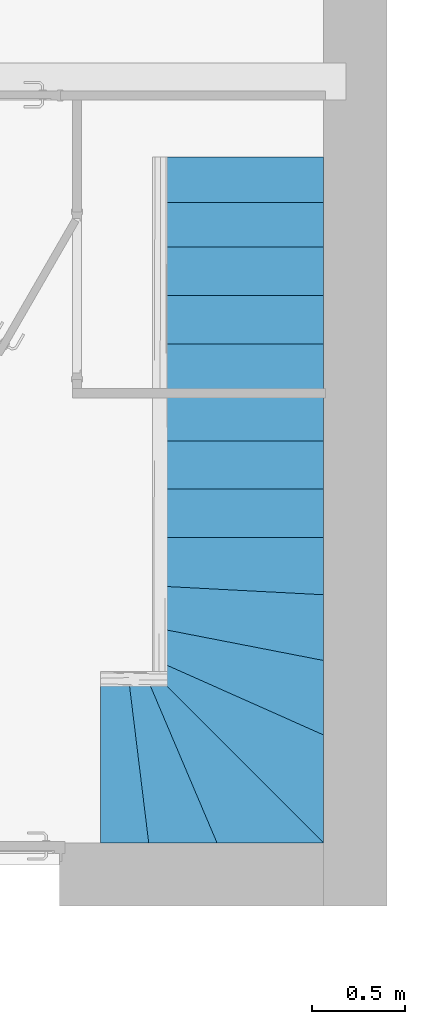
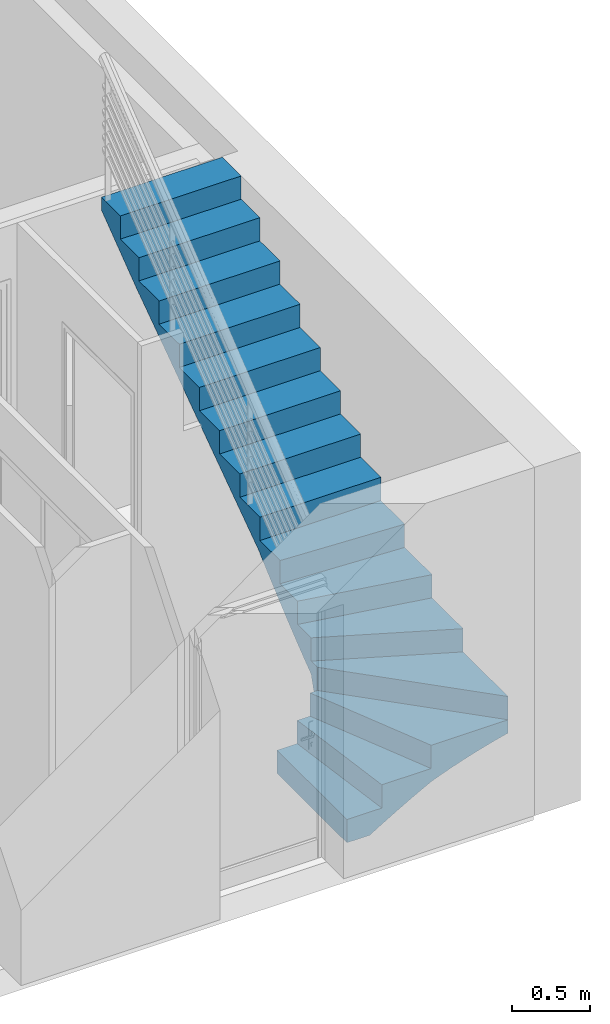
# One storey, part 12 of 12: 1 stair, 1 element without a shape of its own.
"""IFC2X3 building model written with IfcOpenShell, lengths in metres."""

from ifc_helpers import new_model, entity, si_unit, converted_unit, derived_unit, direction, frame, origin, place, context, subcontext, project, spatial, faceted_brep, material, element, aggregate, save


model = new_model("IFC2X3")

# Units and contexts
model_context = context("Model", 3, precision=1e-05, world=origin(), true_north=direction((6.12303176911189e-17, 1.0)))
context_of_model = context(None, 3, precision=1e-05, world=origin(), true_north=direction((6.12303176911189e-17, 1.0)))
body_context = subcontext(model_context, "Body", "Model", "MODEL_VIEW")
ifc_project = project(units=[si_unit("LENGTHUNIT", "METRE"), si_unit("AREAUNIT", "SQUARE_METRE"), si_unit("VOLUMEUNIT", "CUBIC_METRE"), converted_unit("PLANEANGLEUNIT", "DEGREE", entity("IfcRatioMeasure", 0.0174532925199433), si_unit("PLANEANGLEUNIT", "RADIAN"), dimensions=[0, 0, 0, 0, 0, 0, 0]), si_unit("MASSUNIT", "GRAM", prefix="KILO"), si_unit("TIMEUNIT", "SECOND"), si_unit("FREQUENCYUNIT", "HERTZ"), si_unit("THERMODYNAMICTEMPERATUREUNIT", "DEGREE_CELSIUS"), derived_unit("THERMALTRANSMITTANCEUNIT", [(si_unit("MASSUNIT", "GRAM", prefix="KILO"), 1), (si_unit("THERMODYNAMICTEMPERATUREUNIT", "KELVIN"), -1), (si_unit("TIMEUNIT", "SECOND"), -3)]), derived_unit("VOLUMETRICFLOWRATEUNIT", [(si_unit("LENGTHUNIT", "METRE"), 3), (si_unit("TIMEUNIT", "SECOND"), -1)]), si_unit("ELECTRICCURRENTUNIT", "AMPERE"), si_unit("ELECTRICVOLTAGEUNIT", "VOLT"), si_unit("POWERUNIT", "WATT"), si_unit("FORCEUNIT", "NEWTON", prefix="KILO"), si_unit("ILLUMINANCEUNIT", "LUX"), si_unit("LUMINOUSFLUXUNIT", "LUMEN"), si_unit("LUMINOUSINTENSITYUNIT", "CANDELA"), derived_unit("USERDEFINED", [(si_unit("MASSUNIT", "GRAM", prefix="KILO"), -1), (si_unit("LENGTHUNIT", "METRE"), -2), (si_unit("TIMEUNIT", "SECOND"), 3), (si_unit("LUMINOUSFLUXUNIT", "LUMEN"), 1)]), derived_unit("LINEARVELOCITYUNIT", [(si_unit("LENGTHUNIT", "METRE"), 1), (si_unit("TIMEUNIT", "SECOND"), -1)]), si_unit("PRESSUREUNIT", "PASCAL"), derived_unit("USERDEFINED", [(si_unit("LENGTHUNIT", "METRE"), -2), (si_unit("MASSUNIT", "GRAM", prefix="KILO"), 1), (si_unit("TIMEUNIT", "SECOND"), -2)])], contexts=[model_context, context_of_model])

# Site, building, storey
site_placement = place(None, origin())
site = spatial("IfcSite", under=ifc_project, at=site_placement, Name="Surface", CompositionType="ELEMENT")
building_placement = place(site_placement, origin())
building = spatial("IfcBuilding", under=site, at=building_placement, CompositionType="ELEMENT")
storey_placement = place(building_placement, origin())
storey = spatial("IfcBuildingStorey", under=building, at=storey_placement, Name="Rez de chaussée", CompositionType="ELEMENT", Elevation=0.0)

# Stairs
stair_1_placement = place(storey_placement, frame((0.223911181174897, -2.47733948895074, -0.0015952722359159)))
stair_1 = element("IfcStair", 1, at=stair_1_placement, inside=storey, Name="Escalier:Monobloc", ObjectType="Escalier:Monobloc", ShapeType="NOTDEFINED")
ifc_material = material(Name="Maçonnerie - Béton")
stair_2_placement = place(stair_1_placement, origin())
stair_2 = element("IfcStair", 2, at=stair_2_placement, material=ifc_material, Name="Escalier:Monobloc", ObjectType="Escalier:Monobloc", ShapeType="NOTDEFINED", context=body_context, shape_type="Brep", body=[
    faceted_brep([(0.261275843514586, 0.901595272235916, 0.312832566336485), (0.333895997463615, 0.763920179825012, 0.30809771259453), (0.272203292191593, 0.837137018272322, 0.262732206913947), (0.244842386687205, 0.901595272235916, 0.262732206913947), (0.834293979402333, 0.283330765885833, 0.413671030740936), (0.881973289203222, 0.14435942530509, 0.39000664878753), (0.759369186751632, 0.25462048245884, 0.375443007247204), (1.01269917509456, 0.202790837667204, 0.448129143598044), (0.945689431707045, 0.370151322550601, 0.482330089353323), (1.07574269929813, 0.315547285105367, 0.501353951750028), (0.770753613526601, 0.53572815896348, 0.488425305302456), (0.811462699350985, 0.581363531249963, 0.527283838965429), (0.989789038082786, 0.428165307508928, 0.517711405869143), (0.399995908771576, 0.688437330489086, 0.335213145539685), (0.399092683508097, 0.626159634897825, 0.299533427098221), (1.00745466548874, 0.593819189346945, 0.59309405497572), (1.05192171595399, 0.496353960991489, 0.561864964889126), (0.910863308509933, 0.583491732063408, 0.561720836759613), (1.19999999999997, 0.0754166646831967, 0.463214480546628), (1.12699149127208, 0.00159527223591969, 0.42686933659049), (0.299564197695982, 0.772678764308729, 0.262732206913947), (0.32692510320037, 0.708220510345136, 0.262732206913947), (0.518642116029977, 0.45262458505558, 0.318963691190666), (0.583670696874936, 0.494784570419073, 0.375738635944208), (0.616975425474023, 0.372201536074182, 0.347352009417), (0.479089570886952, 0.618209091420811, 0.364897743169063), (0.595158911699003, 0.57099098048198, 0.419007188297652), (0.656637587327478, 0.568603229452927, 0.452061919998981), (0.697588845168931, 0.453854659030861, 0.418618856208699), (0.2794675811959, 0.901595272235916, 0.362338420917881), (0.407688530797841, 0.744821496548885, 0.384146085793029), (0.299999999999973, 0.921954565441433, 0.452585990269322), (0.400594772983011, 0.80634088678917, 0.434307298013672), (0.299999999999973, 0.901595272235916, 0.410913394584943), (0.409007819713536, 0.514845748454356, 0.262732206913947), (0.381646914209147, 0.579304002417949, 0.262732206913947), (0.354286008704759, 0.643762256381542, 0.262732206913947), (0.69693426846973, 0.00159527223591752, 0.290123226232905), (0.64744049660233, 0.227523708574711, 0.319342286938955), (0.749555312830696, 0.13354068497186, 0.338786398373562), (0.429202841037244, 0.816334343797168, 0.476365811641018), (0.587403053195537, 0.683275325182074, 0.48231978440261), (0.521421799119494, 0.682043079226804, 0.437352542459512), (0.490706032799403, 0.322376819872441, 0.262732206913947), (0.463473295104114, 0.386533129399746, 0.262732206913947), (0.436240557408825, 0.450689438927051, 0.262732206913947), (1.19999999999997, 0.510121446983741, 0.600344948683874), (1.19999999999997, 0.438829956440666, 0.573976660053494), (0.572404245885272, 0.129907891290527, 0.262732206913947), (0.545171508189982, 0.194064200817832, 0.262732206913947), (0.517938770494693, 0.258220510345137, 0.262732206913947), (0.62686972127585, 0.00159527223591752, 0.262732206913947), (0.599636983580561, 0.0657515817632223, 0.262732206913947), (0.685161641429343, 0.384680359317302, 0.385674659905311), (1.19999999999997, 0.367034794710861, 0.549012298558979), (0.851654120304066, 0.371220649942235, 0.450472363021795), (0.762402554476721, 0.477232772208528, 0.457864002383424), (0.838545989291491, 0.00159527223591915, 0.341060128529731), (0.767501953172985, 0.00159527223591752, 0.316253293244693), (1.19999999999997, 0.294760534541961, 0.525470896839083), (1.19999999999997, 0.222040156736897, 0.503346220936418), (1.05430493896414, 0.00159527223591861, 0.407393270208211), (0.910047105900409, 0.00159527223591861, 0.364517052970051), (0.981977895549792, 0.00159527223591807, 0.386621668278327), (0.550979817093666, 0.815667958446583, 0.570549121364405), (0.668550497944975, 0.683149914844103, 0.526269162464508), (0.47426736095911, 0.818209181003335, 0.519605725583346), (0.299999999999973, 0.939595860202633, 0.495475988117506), (0.299999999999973, 0.968980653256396, 0.583455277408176), (0.411145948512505, 0.893845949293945, 0.562380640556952), (0.299999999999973, 0.955108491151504, 0.539188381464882), (0.691127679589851, 0.80745400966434, 0.628065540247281), (0.769353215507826, 0.772625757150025, 0.628065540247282), (0.847578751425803, 0.737797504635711, 0.628065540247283), (0.92580428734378, 0.702969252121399, 0.628065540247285), (0.781549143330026, 0.701350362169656, 0.584737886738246), (0.612902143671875, 0.842282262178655, 0.628065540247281), (0.464703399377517, 0.884753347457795, 0.594394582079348), (1.1346766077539, 0.609973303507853, 0.628065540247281), (1.00402982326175, 0.668140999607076, 0.62806554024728), (1.06935321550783, 0.639057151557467, 0.628065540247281), (0.456451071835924, 0.911938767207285, 0.628065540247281), (0.534676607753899, 0.87711051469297, 0.628065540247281), (0.378225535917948, 0.9467670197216, 0.62806554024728), (0.299999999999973, 0.981595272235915, 0.62806554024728), (1.19999999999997, 0.148911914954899, 0.482609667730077), (1.19999999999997, 0.00159527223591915, 0.445100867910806), (1.19999999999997, 0.58088945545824, 0.62806554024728), (1.19999999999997, 1.64159527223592, 1.18249171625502), (1.19999999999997, 1.64159527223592, 1.17606554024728), (0.749999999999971, 1.64159527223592, 1.17606554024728), (0.299999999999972, 1.64159527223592, 1.17606554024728), (0.299999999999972, 1.64159527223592, 1.18249171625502), (1.19999999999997, 1.40881963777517, 1.04864399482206), (0.664438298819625, 1.42047587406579, 1.02017071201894), (0.746181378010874, 1.50325919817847, 1.08238395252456), (0.299999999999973, 1.05787997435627, 0.68531090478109), (0.762952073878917, 0.910195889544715, 0.70558478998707), (1.19999999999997, 0.701145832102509, 0.684197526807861), (0.299999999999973, 1.13317758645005, 0.743817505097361), (0.299999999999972, 1.28116853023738, 0.864031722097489), (0.299999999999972, 1.35410993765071, 0.925460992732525), (0.654456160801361, 1.2438718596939, 0.897101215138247), (0.299999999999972, 1.57008087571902, 1.11300047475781), (1.19999999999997, 1.17504843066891, 0.923069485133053), (0.740825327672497, 1.31871291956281, 0.958455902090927), (1.19999999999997, 0.820627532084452, 0.741915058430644), (0.803850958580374, 1.00799830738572, 0.772090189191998), (1.19999999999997, 0.939384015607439, 0.801074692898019), (0.299999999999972, 1.42648379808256, 0.987538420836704), (0.299999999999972, 1.49842675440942, 1.05010521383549), (0.737399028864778, 1.13247940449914, 0.836930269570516), (1.19999999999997, 1.05748724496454, 0.861515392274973), (0.299999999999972, 1.20757274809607, 0.803440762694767), (1.19999999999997, 1.52527025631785, 1.11223698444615), (1.19999999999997, 1.29212060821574, 0.985515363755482), (0.299999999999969, 3.20159527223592, 2.27849171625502), (1.19999999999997, 3.20159527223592, 2.27849171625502), (0.260000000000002, 0.00159527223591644, 0.184261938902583), (0.149999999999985, 0.901595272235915, 0.184261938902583), (0.0, 0.901595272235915, 0.184261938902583), (0.0, 0.00159527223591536, 0.184261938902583), (0.260000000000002, 0.00159527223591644, 0.366928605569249), (0.62686972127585, 0.00159527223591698, 0.366928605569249), (0.244842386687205, 0.901595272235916, 0.366928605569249), (0.149999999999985, 0.901595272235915, 0.366928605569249), (0.62686972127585, 0.00159527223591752, 0.549595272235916), (1.19999999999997, 0.00159527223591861, 0.549595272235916), (0.299999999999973, 0.901595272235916, 0.549595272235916), (0.244842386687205, 0.901595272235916, 0.549595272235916), (1.19999999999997, 3.44159527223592, 2.55892860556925), (0.299999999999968, 3.44159527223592, 2.55892860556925), (0.299999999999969, 3.20159527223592, 2.55892860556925), (1.19999999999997, 3.20159527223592, 2.55892860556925), (1.19999999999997, 3.68542903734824, 2.74159527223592), (0.299999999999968, 3.68542903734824, 2.74159527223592), (0.299999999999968, 3.44159527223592, 2.74159527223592), (1.19999999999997, 3.44159527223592, 2.74159527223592), (0.0, 0.901595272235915, 0.0015952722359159), (0.0663294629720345, 0.901595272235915, 0.0015952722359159), (0.077828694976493, 0.801595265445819, 0.0015952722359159), (0.0893279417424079, 0.701595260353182, 0.0015952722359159), (0.100827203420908, 0.601595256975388, 0.0015952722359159), (0.112326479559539, 0.501595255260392, 0.0015952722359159), (0.123825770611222, 0.401595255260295, 0.0015952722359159), (0.135325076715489, 0.301595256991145, 0.0015952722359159), (0.146824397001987, 0.201595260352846, 0.0015952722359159), (0.158323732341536, 0.101595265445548, 0.0015952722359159), (0.169823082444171, 0.0015952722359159, 0.0015952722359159), (0.0, 0.00159527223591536, 0.0015952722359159), (0.100708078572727, 0.901595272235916, 0.054709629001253), (0.135577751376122, 0.901595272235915, 0.10749856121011), (0.212886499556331, 0.466992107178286, 0.0862027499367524), (0.273171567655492, 0.670026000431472, 0.193972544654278), (0.224996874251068, 0.651636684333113, 0.139213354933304), (0.171108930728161, 0.901595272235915, 0.15984700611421), (0.284177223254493, 0.233029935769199, 0.101572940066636), (0.208017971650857, 0.261158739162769, 0.0514386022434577), (0.234177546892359, 0.0015952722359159, 0.040520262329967), (0.207470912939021, 0.901595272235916, 0.211630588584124), (0.372163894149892, 0.462828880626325, 0.217071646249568), (0.401160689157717, 0.217439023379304, 0.177715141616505), (0.320153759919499, 0.445253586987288, 0.170874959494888), (0.36363235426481, 0.00159527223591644, 0.117117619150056), (0.298762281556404, 0.00159527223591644, 0.0790606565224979), (0.428837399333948, 0.00159527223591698, 0.154596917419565), (0.494420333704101, 0.00159527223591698, 0.191410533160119), (0.560416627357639, 0.00159527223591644, 0.227477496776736), (0.299999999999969, 3.20159527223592, 2.27601755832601), (0.299999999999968, 3.68542903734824, 2.64135089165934), (1.19999999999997, 3.68542903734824, 2.64135089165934), (1.19999999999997, 3.20159527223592, 2.27601755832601), (0.299999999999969, 3.20159527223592, 2.37626193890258), (1.19999999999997, 3.20159527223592, 2.37626193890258), (0.299999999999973, 0.981595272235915, 0.732261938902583), (0.299999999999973, 0.901595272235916, 0.732261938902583), (1.19999999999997, 0.00159527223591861, 0.732261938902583), (1.19999999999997, 0.580889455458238, 0.732261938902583), (1.19999999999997, 2.16159527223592, 1.64559527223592), (1.19999999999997, 1.90159527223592, 1.64559527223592), (1.19999999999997, 1.90159527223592, 1.46292860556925), (1.19999999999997, 1.64159527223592, 1.46292860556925), (1.19999999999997, 1.64159527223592, 1.28026193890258), (1.19999999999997, 1.33442827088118, 1.28026193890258), (1.19999999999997, 1.33442827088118, 1.09759527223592), (1.19999999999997, 0.98125338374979, 1.09759527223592), (1.19999999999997, 0.98125338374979, 0.914928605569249), (1.19999999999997, 0.580889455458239, 0.914928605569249), (1.19999999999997, 2.94159527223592, 2.37626193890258), (1.19999999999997, 2.94159527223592, 2.19359527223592), (1.19999999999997, 2.68159527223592, 2.19359527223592), (1.19999999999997, 2.68159527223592, 2.01092860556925), (1.19999999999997, 2.42159527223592, 2.01092860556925), (1.19999999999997, 2.42159527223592, 1.82826193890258), (1.19999999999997, 2.16159527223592, 1.82826193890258), (0.299999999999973, 0.981595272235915, 0.914928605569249), (0.299999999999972, 1.15619566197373, 0.914928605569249), (0.299999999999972, 1.15619566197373, 1.09759527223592), (0.299999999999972, 1.38159527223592, 1.09759527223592), (0.299999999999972, 1.38159527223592, 1.28026193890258), (0.299999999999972, 1.64159527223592, 1.28026193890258), (0.299999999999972, 1.64159527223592, 1.46292860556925), (0.299999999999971, 1.90159527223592, 1.46292860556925), (0.299999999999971, 1.90159527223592, 1.64559527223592), (0.299999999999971, 2.16159527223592, 1.64559527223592), (0.299999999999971, 2.16159527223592, 1.82826193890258), (0.29999999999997, 2.42159527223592, 1.82826193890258), (0.29999999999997, 2.42159527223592, 2.01092860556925), (0.29999999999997, 2.68159527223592, 2.01092860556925), (0.29999999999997, 2.68159527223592, 2.19359527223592), (0.299999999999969, 2.94159527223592, 2.19359527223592), (0.299999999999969, 2.94159527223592, 2.37626193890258)], [[[0, 1, 2]], [[0, 2, 3]], [[4, 5, 6]], [[7, 8, 9]], [[10, 11, 12]], [[1, 13, 14]], [[15, 16, 17]], [[18, 19, 7]], [[20, 2, 1, 21]], [[22, 23, 24]], [[22, 13, 25]], [[26, 27, 28]], [[7, 5, 4]], [[29, 30, 13]], [[31, 32, 33]], [[21, 14, 34, 35, 36]], [[37, 38, 39]], [[29, 13, 1]], [[40, 41, 42]], [[22, 43, 44, 45, 34]], [[16, 46, 47]], [[38, 43, 22]], [[48, 49, 50, 43, 38]], [[37, 51, 52, 48]], [[28, 53, 23]], [[12, 17, 16]], [[16, 54, 12]], [[8, 55, 56]], [[48, 38, 37]], [[57, 58, 39]], [[13, 22, 14]], [[59, 60, 9]], [[39, 58, 37]], [[61, 7, 19]], [[39, 62, 57]], [[62, 39, 5]], [[61, 5, 7]], [[32, 30, 33]], [[63, 5, 61]], [[64, 65, 66]], [[40, 31, 67]], [[29, 1, 0]], [[68, 69, 70]], [[33, 30, 29]], [[54, 16, 47]], [[71, 72, 73, 74, 75]], [[13, 30, 25]], [[74, 15, 75]], [[76, 64, 77]], [[78, 15, 74, 79, 80]], [[53, 4, 6]], [[81, 82, 76, 77, 83]], [[84, 83, 68]], [[40, 67, 66]], [[55, 4, 28]], [[64, 76, 71]], [[10, 65, 11]], [[32, 40, 42]], [[70, 66, 67]], [[8, 10, 12]], [[7, 9, 85]], [[9, 12, 54]], [[85, 9, 60]], [[64, 69, 77]], [[19, 18, 86]], [[8, 12, 9]], [[75, 17, 11]], [[34, 14, 22]], [[63, 62, 5]], [[71, 75, 64]], [[8, 7, 55]], [[75, 15, 17]], [[65, 64, 75]], [[30, 42, 26]], [[16, 15, 46]], [[78, 87, 46]], [[66, 70, 69]], [[78, 46, 15]], [[28, 27, 56]], [[41, 66, 65]], [[59, 9, 54]], [[42, 27, 26]], [[42, 41, 27]], [[18, 7, 85]], [[1, 14, 21]], [[7, 4, 55]], [[40, 32, 31]], [[30, 32, 42]], [[66, 41, 40]], [[10, 41, 65]], [[41, 10, 27]], [[56, 27, 10]], [[28, 23, 26]], [[26, 23, 25]], [[68, 83, 77]], [[66, 69, 64]], [[68, 77, 69]], [[24, 23, 53]], [[38, 6, 39]], [[5, 39, 6]], [[75, 11, 65]], [[12, 11, 17]], [[26, 25, 30]], [[22, 25, 23]], [[4, 53, 28]], [[24, 6, 38]], [[6, 24, 53]], [[38, 22, 24]], [[8, 56, 10]], [[28, 56, 55]], [[88, 89, 90, 91, 92]], [[93, 94, 95]], [[83, 84, 96, 82, 81]], [[96, 97, 82]], [[82, 97, 74, 73, 72, 71, 76]], [[74, 97, 98]], [[99, 97, 96]], [[100, 101, 102]], [[98, 87, 78, 80, 79, 74]], [[90, 103, 91]], [[104, 102, 105]], [[106, 107, 108]], [[109, 110, 94]], [[108, 111, 112]], [[97, 106, 98]], [[111, 113, 100]], [[99, 113, 107]], [[101, 105, 102]], [[110, 103, 95]], [[110, 95, 94]], [[105, 101, 109]], [[114, 95, 90]], [[109, 94, 105]], [[111, 102, 112]], [[104, 105, 115]], [[97, 107, 106]], [[100, 102, 111]], [[107, 111, 108]], [[103, 90, 95]], [[89, 114, 90]], [[115, 94, 93]], [[99, 107, 97]], [[115, 105, 94]], [[112, 102, 104]], [[93, 95, 114]], [[111, 107, 113]], [[92, 116, 117, 88]], [[118, 119, 120, 121]], [[122, 123, 124, 125]], [[126, 127, 128, 129]], [[130, 131, 132, 133]], [[134, 135, 136, 137]], [[138, 139, 140, 141, 142, 143, 144, 145, 146, 147, 148, 149]], [[150, 141, 140]], [[150, 142, 141]], [[140, 139, 150]], [[151, 152, 150]], [[153, 154, 155]], [[155, 154, 151]], [[152, 142, 150]], [[156, 157, 152]], [[147, 146, 157]], [[143, 157, 144]], [[158, 148, 147]], [[153, 159, 20]], [[152, 157, 143]], [[157, 158, 147]], [[151, 154, 152]], [[146, 145, 157]], [[160, 161, 162]], [[156, 163, 164]], [[34, 45, 44, 43, 50, 160, 36, 35]], [[153, 36, 160]], [[161, 163, 156]], [[155, 159, 153]], [[157, 164, 158]], [[3, 2, 20, 159]], [[156, 162, 161]], [[143, 142, 152]], [[21, 36, 153, 20]], [[161, 165, 163]], [[161, 166, 165]], [[160, 50, 161]], [[162, 153, 160]], [[162, 156, 152]], [[167, 166, 161]], [[161, 50, 49]], [[49, 167, 161]], [[157, 145, 144]], [[153, 162, 154]], [[162, 152, 154]], [[52, 51, 167, 49, 48]], [[157, 156, 164]], [[168, 169, 170, 171]], [[168, 171, 117, 116]], [[133, 132, 172, 173]], [[58, 57, 62, 63, 61, 19, 86, 127, 126, 123, 122, 118, 121, 149, 148, 158, 164, 163, 165, 166, 167, 51, 37]], [[121, 120, 138, 149]], [[129, 128, 33, 29, 0, 3, 159, 155, 151, 150, 139, 138, 120, 119, 125, 124]], [[122, 125, 119, 118]], [[126, 129, 124, 123]], [[174, 175, 176, 177]], [[178, 179, 180, 181, 182, 183, 184, 185, 186, 187, 177, 176, 127, 86, 18, 85, 60, 59, 54, 47, 46, 87, 98, 106, 108, 112, 104, 115, 93, 114, 89, 88, 117, 171, 170, 134, 137, 130, 133, 173, 188, 189, 190, 191, 192, 193, 194]], [[176, 175, 128, 127]], [[135, 169, 168, 116, 92, 91, 103, 110, 109, 101, 100, 113, 99, 96, 84, 68, 70, 67, 31, 33, 128, 175, 174, 195, 196, 197, 198, 199, 200, 201, 202, 203, 204, 205, 206, 207, 208, 209, 210, 211, 172, 132, 131, 136]], [[196, 195, 187, 186]], [[187, 195, 174, 177]], [[184, 198, 197, 185]], [[185, 197, 196, 186]], [[182, 200, 199, 183]], [[183, 199, 198, 184]], [[180, 202, 201, 181]], [[181, 201, 200, 182]], [[178, 204, 203, 179]], [[179, 203, 202, 180]], [[193, 206, 205, 194]], [[194, 205, 204, 178]], [[191, 208, 207, 192]], [[192, 207, 206, 193]], [[189, 210, 209, 190]], [[190, 209, 208, 191]], [[173, 172, 211, 188]], [[188, 211, 210, 189]], [[137, 136, 131, 130]], [[135, 134, 170, 169]]]),
])
aggregate(stair_1, [stair_2])

save(model, "model.ifc")
